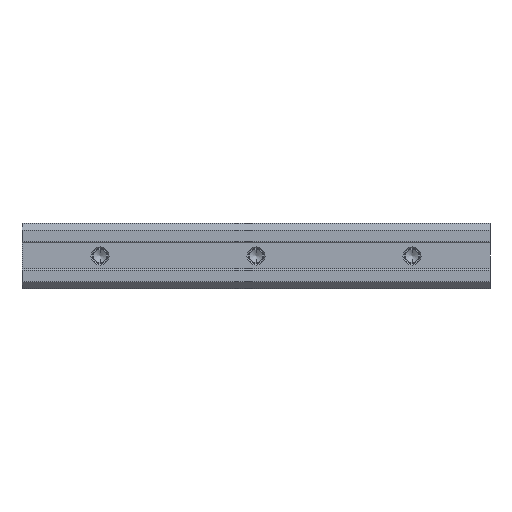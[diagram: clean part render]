
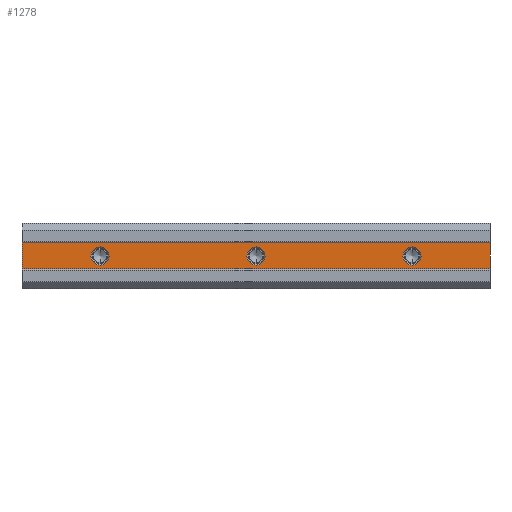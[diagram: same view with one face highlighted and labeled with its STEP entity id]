
A CAD part, front view. The second image highlights one B-rep face of the part: STEP entity #1278.
In plain terms, the highlighted planar face has unit normal (0, -1, 0).
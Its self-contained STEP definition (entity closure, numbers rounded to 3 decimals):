
#43 = VERTEX_POINT ( 'NONE', #757 ) ;
#74 = EDGE_CURVE ( 'NONE', #1294, #1151, #506, .T. ) ;
#105 = DIRECTION ( 'NONE',  ( 0., 0., -1. ) ) ;
#120 = EDGE_CURVE ( 'NONE', #1468, #953, #297, .T. ) ;
#132 = EDGE_CURVE ( 'NONE', #1294, #734, #1323, .T. ) ;
#142 = VECTOR ( 'NONE', #1222, 1000. ) ;
#145 = CIRCLE ( 'NONE', #1548, 3.5 ) ;
#192 = LINE ( 'NONE', #712, #142 ) ;
#205 = EDGE_LOOP ( 'NONE', ( #283, #231, #1442, #665 ) ) ;
#231 = ORIENTED_EDGE ( 'NONE', *, *, #361, .F. ) ;
#233 = CARTESIAN_POINT ( 'NONE',  ( 150., 0.5, -3.5 ) ) ;
#237 = EDGE_CURVE ( 'NONE', #953, #1468, #268, .T. ) ;
#241 = DIRECTION ( 'NONE',  ( 0., 1., 0. ) ) ;
#263 = DIRECTION ( 'NONE',  ( 0., 0., 1. ) ) ;
#268 = CIRCLE ( 'NONE', #1378, 3.5 ) ;
#271 = DIRECTION ( 'NONE',  ( 0., 1., 0. ) ) ;
#283 = ORIENTED_EDGE ( 'NONE', *, *, #285, .T. ) ;
#285 = EDGE_CURVE ( 'NONE', #734, #856, #310, .T. ) ;
#291 = ORIENTED_EDGE ( 'NONE', *, *, #973, .T. ) ;
#297 = CIRCLE ( 'NONE', #877, 3.5 ) ;
#310 = LINE ( 'NONE', #706, #579 ) ;
#323 = DIRECTION ( 'NONE',  ( 0., 1., 0. ) ) ;
#361 = EDGE_CURVE ( 'NONE', #1151, #856, #192, .T. ) ;
#362 = CIRCLE ( 'NONE', #1163, 3.5 ) ;
#377 = DIRECTION ( 'NONE',  ( 0., 0., 1. ) ) ;
#480 = CARTESIAN_POINT ( 'NONE',  ( 150., 0.5, 3.5 ) ) ;
#506 = LINE ( 'NONE', #868, #1350 ) ;
#551 = CARTESIAN_POINT ( 'NONE',  ( 0., 0.5, 5. ) ) ;
#579 = VECTOR ( 'NONE', #1380, 1000. ) ;
#607 = CARTESIAN_POINT ( 'NONE',  ( 150., 0.5, 0. ) ) ;
#638 = VERTEX_POINT ( 'NONE', #1331 ) ;
#653 = DIRECTION ( 'NONE',  ( 0., 0., 1. ) ) ;
#659 = VERTEX_POINT ( 'NONE', #1184 ) ;
#665 = ORIENTED_EDGE ( 'NONE', *, *, #132, .T. ) ;
#698 = CIRCLE ( 'NONE', #913, 3.5 ) ;
#706 = CARTESIAN_POINT ( 'NONE',  ( 0., 0.5, -5. ) ) ;
#712 = CARTESIAN_POINT ( 'NONE',  ( 180., 0.5, -5. ) ) ;
#734 = VERTEX_POINT ( 'NONE', #551 ) ;
#737 = FACE_BOUND ( 'NONE', #1107, .T. ) ;
#748 = FACE_OUTER_BOUND ( 'NONE', #205, .T. ) ;
#757 = CARTESIAN_POINT ( 'NONE',  ( 30., 0.5, 3.5 ) ) ;
#770 = EDGE_CURVE ( 'NONE', #659, #638, #1406, .T. ) ;
#835 = VERTEX_POINT ( 'NONE', #1226 ) ;
#856 = VERTEX_POINT ( 'NONE', #1032 ) ;
#861 = CARTESIAN_POINT ( 'NONE',  ( 180., 0.5, -5. ) ) ;
#866 = ORIENTED_EDGE ( 'NONE', *, *, #120, .T. ) ;
#868 = CARTESIAN_POINT ( 'NONE',  ( 180., 0.5, -5. ) ) ;
#877 = AXIS2_PLACEMENT_3D ( 'NONE', #607, #1134, #1659 ) ;
#896 = FACE_BOUND ( 'NONE', #1455, .T. ) ;
#913 = AXIS2_PLACEMENT_3D ( 'NONE', #1430, #241, #653 ) ;
#925 = CARTESIAN_POINT ( 'NONE',  ( 150., 0.5, 0. ) ) ;
#931 = CARTESIAN_POINT ( 'NONE',  ( 180., 0.5, 5. ) ) ;
#939 = ORIENTED_EDGE ( 'NONE', *, *, #1440, .T. ) ;
#953 = VERTEX_POINT ( 'NONE', #233 ) ;
#959 = EDGE_CURVE ( 'NONE', #638, #659, #362, .T. ) ;
#968 = CARTESIAN_POINT ( 'NONE',  ( 180., 0.5, -5. ) ) ;
#973 = EDGE_CURVE ( 'NONE', #43, #835, #698, .T. ) ;
#981 = ORIENTED_EDGE ( 'NONE', *, *, #959, .T. ) ;
#1015 = CARTESIAN_POINT ( 'NONE',  ( 30., 0.5, 0. ) ) ;
#1017 = VECTOR ( 'NONE', #1447, 1000. ) ;
#1019 = CARTESIAN_POINT ( 'NONE',  ( 180., 0.5, 5. ) ) ;
#1032 = CARTESIAN_POINT ( 'NONE',  ( 0., 0.5, -5. ) ) ;
#1107 = EDGE_LOOP ( 'NONE', ( #981, #1635 ) ) ;
#1134 = DIRECTION ( 'NONE',  ( 0., 1., 0. ) ) ;
#1151 = VERTEX_POINT ( 'NONE', #968 ) ;
#1163 = AXIS2_PLACEMENT_3D ( 'NONE', #1561, #1306, #377 ) ;
#1184 = CARTESIAN_POINT ( 'NONE',  ( 90., 0.5, 3.5 ) ) ;
#1222 = DIRECTION ( 'NONE',  ( -1., 0., 0. ) ) ;
#1226 = CARTESIAN_POINT ( 'NONE',  ( 30., 0.5, -3.5 ) ) ;
#1278 = ADVANCED_FACE ( 'NONE', ( #737, #896, #748, #1279 ), #1418, .F. ) ;
#1279 = FACE_BOUND ( 'NONE', #1372, .T. ) ;
#1294 = VERTEX_POINT ( 'NONE', #1019 ) ;
#1306 = DIRECTION ( 'NONE',  ( 0., 1., 0. ) ) ;
#1323 = LINE ( 'NONE', #931, #1017 ) ;
#1331 = CARTESIAN_POINT ( 'NONE',  ( 90., 0.5, -3.5 ) ) ;
#1350 = VECTOR ( 'NONE', #105, 1000. ) ;
#1372 = EDGE_LOOP ( 'NONE', ( #1703, #866 ) ) ;
#1378 = AXIS2_PLACEMENT_3D ( 'NONE', #925, #271, #263 ) ;
#1380 = DIRECTION ( 'NONE',  ( 0., 0., -1. ) ) ;
#1383 = AXIS2_PLACEMENT_3D ( 'NONE', #861, #1401, #1660 ) ;
#1401 = DIRECTION ( 'NONE',  ( 0., 1., 0. ) ) ;
#1406 = CIRCLE ( 'NONE', #1464, 3.5 ) ;
#1418 = PLANE ( 'NONE',  #1383 ) ;
#1430 = CARTESIAN_POINT ( 'NONE',  ( 30., 0.5, 0. ) ) ;
#1440 = EDGE_CURVE ( 'NONE', #835, #43, #145, .T. ) ;
#1442 = ORIENTED_EDGE ( 'NONE', *, *, #74, .F. ) ;
#1447 = DIRECTION ( 'NONE',  ( -1., 0., 0. ) ) ;
#1455 = EDGE_LOOP ( 'NONE', ( #939, #291 ) ) ;
#1464 = AXIS2_PLACEMENT_3D ( 'NONE', #1601, #1616, #1608 ) ;
#1468 = VERTEX_POINT ( 'NONE', #480 ) ;
#1548 = AXIS2_PLACEMENT_3D ( 'NONE', #1015, #323, #1658 ) ;
#1561 = CARTESIAN_POINT ( 'NONE',  ( 90., 0.5, 0. ) ) ;
#1601 = CARTESIAN_POINT ( 'NONE',  ( 90., 0.5, 0. ) ) ;
#1608 = DIRECTION ( 'NONE',  ( 0., 0., 1. ) ) ;
#1616 = DIRECTION ( 'NONE',  ( 0., 1., 0. ) ) ;
#1635 = ORIENTED_EDGE ( 'NONE', *, *, #770, .T. ) ;
#1658 = DIRECTION ( 'NONE',  ( 0., 0., 1. ) ) ;
#1659 = DIRECTION ( 'NONE',  ( 0., 0., 1. ) ) ;
#1660 = DIRECTION ( 'NONE',  ( 0., 0., 1. ) ) ;
#1703 = ORIENTED_EDGE ( 'NONE', *, *, #237, .T. ) ;
